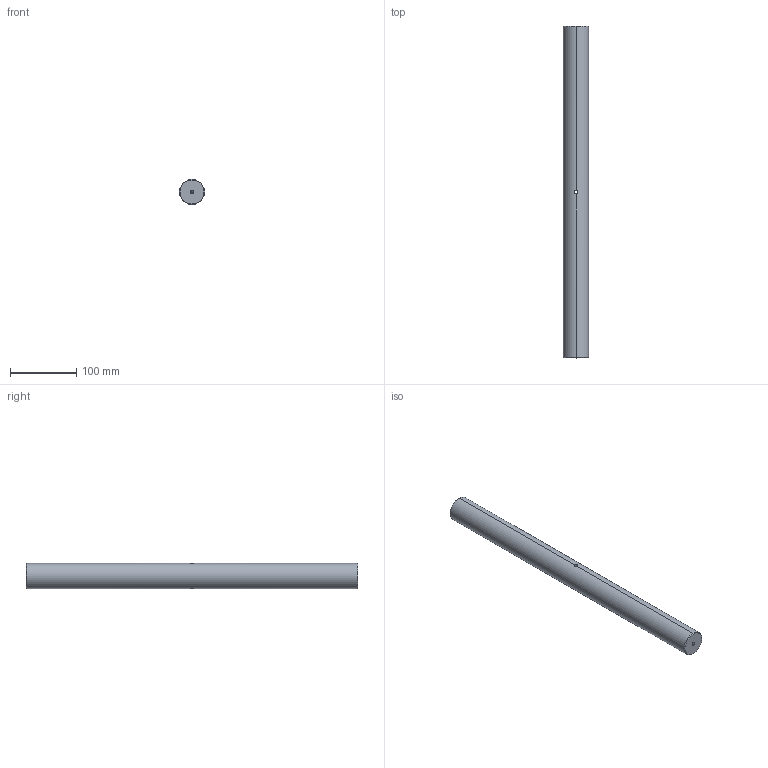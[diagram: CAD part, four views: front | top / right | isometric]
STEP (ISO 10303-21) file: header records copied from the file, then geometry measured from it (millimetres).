
FILE_DESCRIPTION (( 'STEP AP214' ), '1' );
FILE_NAME ('接杆38×500.STEP', '2026-09-01T01:44:48', ( '' ), ( '' ), 'SwSTEP 2.0', 'SolidWorks 2024', '' );
FILE_SCHEMA (( 'AUTOMOTIVE_DESIGN' ));
Length unit declared in the file: millimetre
Products named in the file (1): 接杆38×500
Bounding box: 38 x 500 x 38 mm (x, y, z)
Volume: 565260.4 mm3; surface area: 62948.9 mm2
Topology: 1 solids, 1 shells, 18 faces, 46 edges, 26 vertices
Faces by surface type: cone 8, cylinder 8, plane 2
Entity records: 661 total; most frequent: CARTESIAN_POINT 223, DIRECTION 88, ORIENTED_EDGE 84, EDGE_CURVE 42, AXIS2_PLACEMENT_3D 35, VERTEX_POINT 26, EDGE_LOOP 20, ADVANCED_FACE 18
